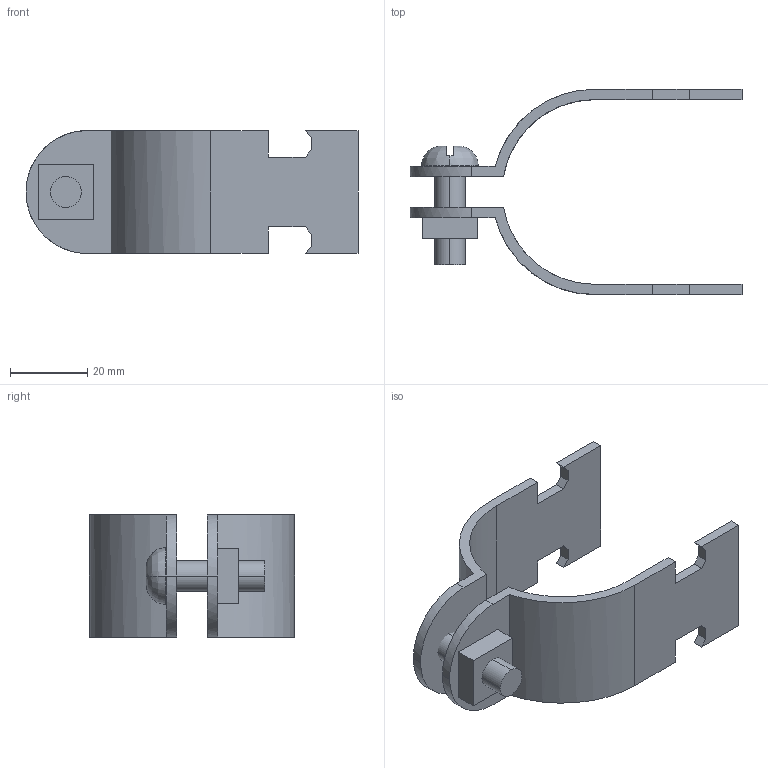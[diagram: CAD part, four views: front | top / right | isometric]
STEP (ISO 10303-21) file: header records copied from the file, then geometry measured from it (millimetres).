
FILE_DESCRIPTION(('TurboCAD Mac Pro'),'Build 980');
FILE_NAME('P2037.stp',' ',(''),(''),'ACIS Interop','IMSI','TurboCAD Mac Pro BY IMSI, INCORPORATED');
FILE_SCHEMA(('automotive_design'));
Length unit declared in the file: inch
Products named in the file (6): 1; 2; 3; 4; 5; 6
Bounding box: 85.7 x 52.97 x 31.74 mm (x, y, z)
Volume: 17485.3 mm3; surface area: 14526.5 mm2
Topology: 5 solids, 5 shells, 76 faces, 194 edges, 128 vertices
Faces by surface type: plane 52, bspline 24
Entity records: 3672 total; most frequent: CARTESIAN_POINT 1140, ORIENTED_EDGE 388, DIRECTION 266, EDGE_CURVE 194, LINE 142, VECTOR 142, VERTEX_POINT 128, STYLED_ITEM 93
